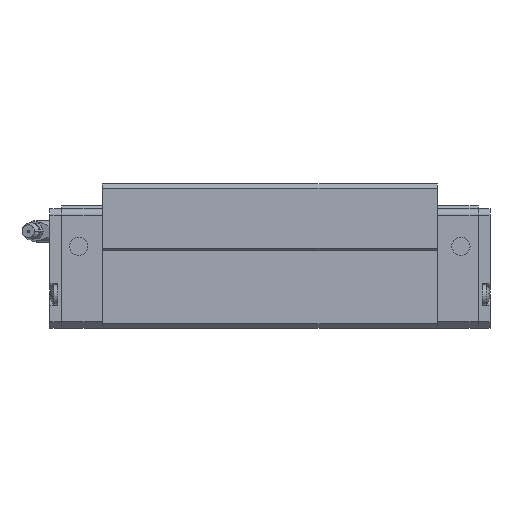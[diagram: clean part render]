
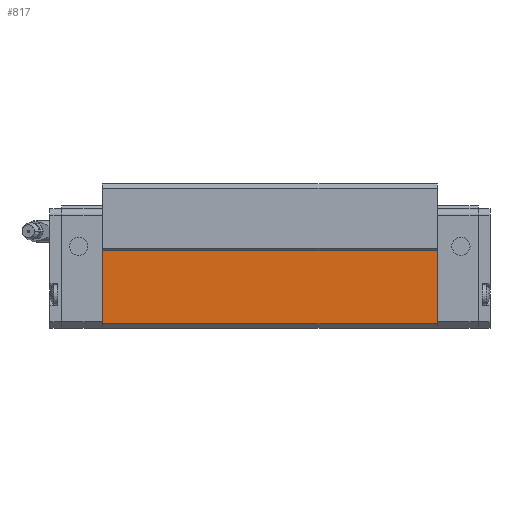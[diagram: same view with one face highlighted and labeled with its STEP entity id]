
A CAD part, front view. The second image highlights one B-rep face of the part: STEP entity #817.
In plain terms, the highlighted planar face has unit normal (0, -1, 0).
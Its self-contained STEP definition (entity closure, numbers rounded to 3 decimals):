
#756=CARTESIAN_POINT('POINT46',(180.3,-49.,
   2.));
#757=VERTEX_POINT('VERTEX46',#756);
#764=CARTESIAN_POINT('POINT47',(24.5,-49.,
   2.));
#765=VERTEX_POINT('VERTEX47',#764);
#766=CARTESIAN_POINT('POS77',(24.5,-49.,
   2.));
#767=DIRECTION('DIR116',(1.,0.,0.));
#768=VECTOR('VEC38',#767,1.);
#769=LINE('STRAIGHT38',#766,#768);
#770=EDGE_CURVE('EDGE76',#765,#757,#769,.T.);
#787=CARTESIAN_POINT('POINT48',(180.3,-49.,
   36.));
#788=VERTEX_POINT('VERTEX48',#787);
#789=CARTESIAN_POINT('POS80',(180.3,-49.,
   2.));
#790=DIRECTION('DIR120',(0.,0.,1.));
#791=VECTOR('VEC40',#790,1.);
#792=LINE('STRAIGHT40',#789,#791);
#793=EDGE_CURVE('EDGE78',#757,#788,#792,.T.);
#794=ORIENTED_EDGE('COEDGE143',*,*,#793,.T.);
#795=CARTESIAN_POINT('POINT49',(24.5,-49.,
   36.));
#796=VERTEX_POINT('VERTEX49',#795);
#797=CARTESIAN_POINT('POS81',(24.5,-49.,
   36.));
#798=DIRECTION('DIR121',(1.,0.,0.));
#799=VECTOR('VEC41',#798,1.);
#800=LINE('STRAIGHT41',#797,#799);
#801=EDGE_CURVE('EDGE79',#796,#788,#800,.T.);
#802=ORIENTED_EDGE('COEDGE144',*,*,#801,.F.);
#803=CARTESIAN_POINT('POS82',(24.5,-49.,
   2.));
#804=DIRECTION('DIR122',(0.,0.,1.));
#805=VECTOR('VEC42',#804,1.);
#806=LINE('STRAIGHT42',#803,#805);
#807=EDGE_CURVE('EDGE80',#765,#796,#806,.T.);
#808=ORIENTED_EDGE('COEDGE145',*,*,#807,.F.);
#809=ORIENTED_EDGE('COEDGE146',*,*,#770,.T.);
#810=EDGE_LOOP('NONE',(#794,#802,#808,#809));
#811=FACE_BOUND('LOOP1',#810,.T.);
#812=CARTESIAN_POINT('POS83',(24.5,-49.,
   2.));
#813=DIRECTION('DIR123',(0.,-1.,0.));
#814=DIRECTION('DIR124',(1.,0.,0.));
#815=AXIS2_PLACEMENT_3D('AXIS41',#812,#813,#814);
#816=PLANE('PLANE6',#815);
#817=ADVANCED_FACE('FACE38',(#811),#816,.T.);
